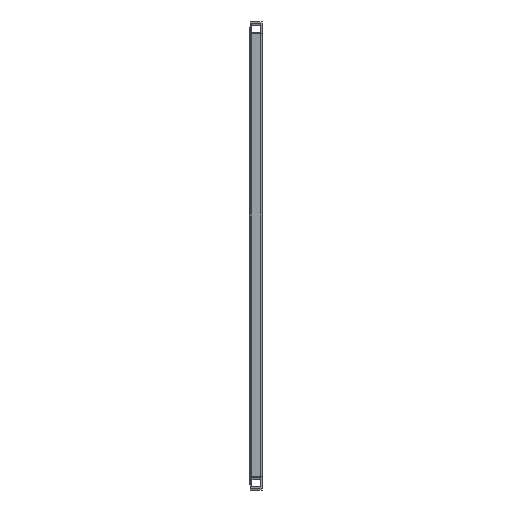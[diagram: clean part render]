
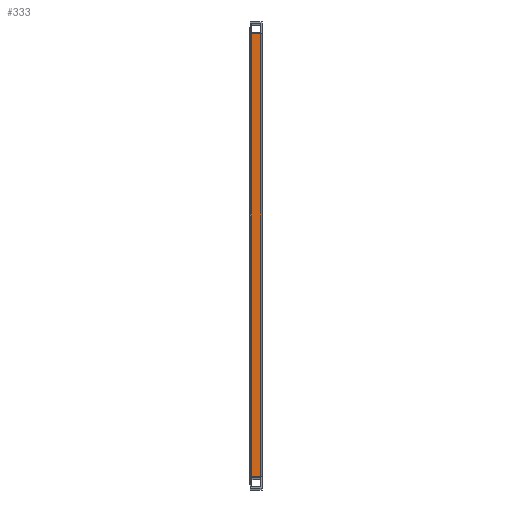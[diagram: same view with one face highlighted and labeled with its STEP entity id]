
A CAD part, top view. The second image highlights one B-rep face of the part: STEP entity #333.
In plain terms, the highlighted planar face has unit normal (0, 0, 1) as drawn and (-1, 0, 0) by its records, which use the part's own axes.
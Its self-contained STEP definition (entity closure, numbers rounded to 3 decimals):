
#17 = DIRECTION ( 'NONE',  ( 1., 0., 0. ) ) ;
#333 = ADVANCED_FACE ( 'NONE', ( #8369 ), #1712, .F. ) ;
#808 = ORIENTED_EDGE ( 'NONE', *, *, #7716, .T. ) ;
#842 = CARTESIAN_POINT ( 'NONE',  ( -10., 10., 760. ) ) ;
#844 = DIRECTION ( 'NONE',  ( 0., -1., 0. ) ) ;
#967 = CARTESIAN_POINT ( 'NONE',  ( -10., -10., 0. ) ) ;
#1385 = ORIENTED_EDGE ( 'NONE', *, *, #3330, .F. ) ;
#1712 = PLANE ( 'NONE',  #4282 ) ;
#1792 = VECTOR ( 'NONE', #6987, 1000. ) ;
#2391 = DIRECTION ( 'NONE',  ( 0., 1., 0. ) ) ;
#3033 = CARTESIAN_POINT ( 'NONE',  ( -10., 10., 760. ) ) ;
#3330 = EDGE_CURVE ( 'NONE', #7228, #8740, #9555, .T. ) ;
#3534 = VECTOR ( 'NONE', #9103, 1000. ) ;
#3549 = EDGE_CURVE ( 'NONE', #8771, #8740, #6755, .T. ) ;
#3930 = VERTEX_POINT ( 'NONE', #842 ) ;
#4282 = AXIS2_PLACEMENT_3D ( 'NONE', #4301, #17, #2391 ) ;
#4301 = CARTESIAN_POINT ( 'NONE',  ( -10., -10., 760. ) ) ;
#4892 = CARTESIAN_POINT ( 'NONE',  ( -10., -10., 0. ) ) ;
#4995 = CARTESIAN_POINT ( 'NONE',  ( -10., 10., 0. ) ) ;
#5254 = EDGE_CURVE ( 'NONE', #3930, #7228, #8380, .T. ) ;
#5364 = CARTESIAN_POINT ( 'NONE',  ( -10., -10., 760. ) ) ;
#6155 = DIRECTION ( 'NONE',  ( 0., 0., -1. ) ) ;
#6381 = ORIENTED_EDGE ( 'NONE', *, *, #3549, .T. ) ;
#6564 = EDGE_LOOP ( 'NONE', ( #6381, #1385, #7188, #808 ) ) ;
#6741 = CARTESIAN_POINT ( 'NONE',  ( -10., -10., 760. ) ) ;
#6755 = LINE ( 'NONE', #967, #3534 ) ;
#6841 = CARTESIAN_POINT ( 'NONE',  ( -10., -10., 760. ) ) ;
#6987 = DIRECTION ( 'NONE',  ( 0., 0., -1. ) ) ;
#7188 = ORIENTED_EDGE ( 'NONE', *, *, #5254, .F. ) ;
#7228 = VERTEX_POINT ( 'NONE', #6841 ) ;
#7716 = EDGE_CURVE ( 'NONE', #3930, #8771, #8682, .T. ) ;
#8004 = VECTOR ( 'NONE', #844, 1000. ) ;
#8369 = FACE_OUTER_BOUND ( 'NONE', #6564, .T. ) ;
#8380 = LINE ( 'NONE', #6741, #8004 ) ;
#8682 = LINE ( 'NONE', #3033, #10851 ) ;
#8740 = VERTEX_POINT ( 'NONE', #4892 ) ;
#8771 = VERTEX_POINT ( 'NONE', #4995 ) ;
#9103 = DIRECTION ( 'NONE',  ( 0., -1., 0. ) ) ;
#9555 = LINE ( 'NONE', #5364, #1792 ) ;
#10851 = VECTOR ( 'NONE', #6155, 1000. ) ;
